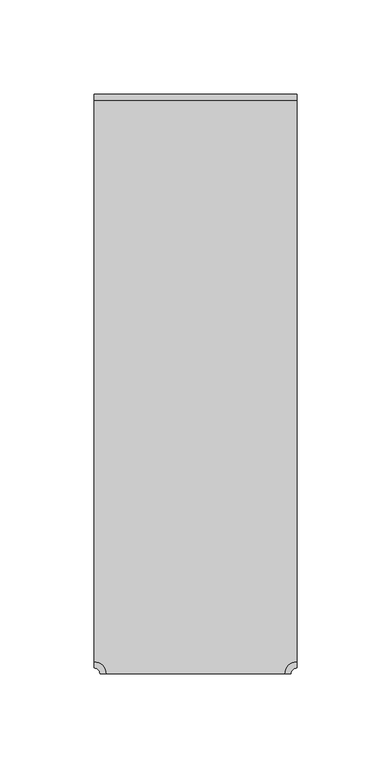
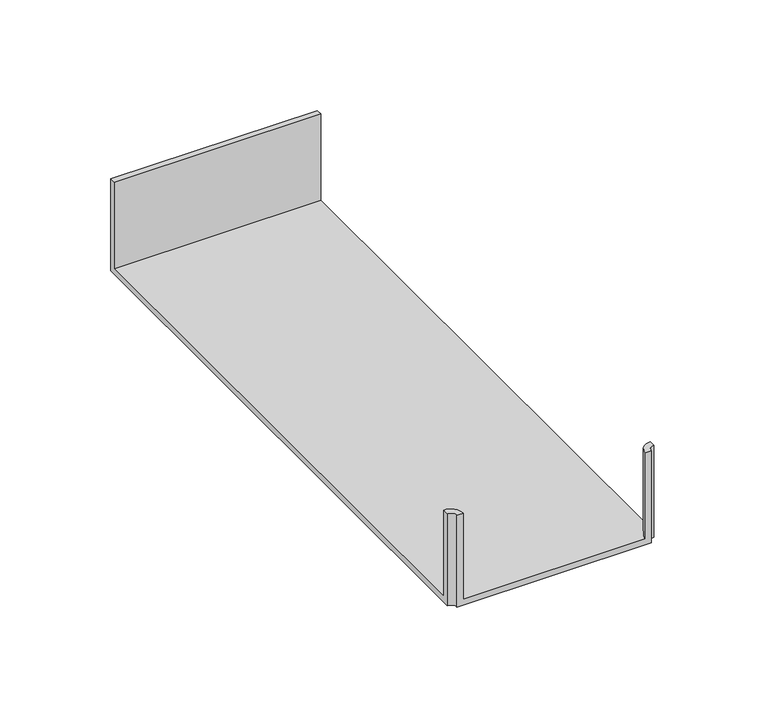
"""IFC4 building model written with IfcOpenShell, lengths in millimetres: cable carrier fitting geometry, Tee-Cablofil-Wire_Mesh_Cable_Tray : EZ T 90 KIT."""

from ifc_helpers import new_model, si_unit, frame, origin, place, context, project, spatial, polyline, circle_curve, source, transform, mapped, element, save
from ifc_brep_helpers import plane_surface, cylinder_surface, revolved_surface, advanced_brep


def cable_carrier_fitting_3a409af5(model_context):
    return source(origin(), model_context, "Body", "AdvancedBrep", [
        advanced_brep(
        [(-50.8, -155.575, 25.4), (-47.625, -155.575, 25.4), (-53.975, -149.225, 25.4), (-53.975, -152.4, 25.4), (50.8, -155.575, 25.4), (53.975, -152.4, 25.4), (53.975, -149.225, 25.4), (47.625, -155.575, 25.4), (53.975, 152.4, 25.4), (-53.975, 152.4, 25.4), (-53.975, 149.225, 25.4), (53.975, 149.225, 25.4), (-50.8, -155.575, -25.4), (-53.975, -152.4, -25.4), (-53.975, 152.4, -25.4), (53.975, 152.4, -25.4), (53.975, -152.4, -25.4), (50.8, -155.575, -25.4), (47.625, -155.575, -22.225), (-47.625, -155.575, -22.225), (-53.975, -149.225, -22.225), (-53.975, 149.225, -22.225), (53.975, 149.225, -22.225), (53.975, -149.225, -22.225)],
        [
            (0, 1),
            (1, 2, circle_curve(frame((-53.975, -155.575, 25.4), z_axis=(0.0, 0.0, 1.0), x_axis=(1.0, 0.0, 0.0)), 6.35)),
            (2, 3),
            (3, 0, circle_curve(frame((-53.975, -155.575, 25.4), z_axis=(0.0, 0.0, -1.0), x_axis=(1.0, 0.0, 0.0)), 3.175)),
            (4, 5, circle_curve(frame((53.975, -155.575, 25.4), z_axis=(0.0, 0.0, -1.0), x_axis=(1.0, 0.0, 0.0)), 3.175)),
            (5, 6),
            (6, 7, circle_curve(frame((53.975, -155.575, 25.4), z_axis=(0.0, 0.0, 1.0), x_axis=(1.0, 0.0, 0.0)), 6.35)),
            (7, 4),
            (8, 9),
            (9, 10),
            (10, 11),
            (11, 8),
            (12, 13, circle_curve(frame((-53.975, -155.575, -25.4), z_axis=(0.0, 0.0, 1.0), x_axis=(1.0, 0.0, 0.0)), 3.175)),
            (13, 14),
            (14, 15),
            (15, 16),
            (16, 17, circle_curve(frame((53.975, -155.575, -25.4), z_axis=(0.0, 0.0, 1.0), x_axis=(1.0, 0.0, 0.0)), 3.175)),
            (17, 12),
            (0, 12),
            (17, 4),
            (7, 18),
            (18, 19),
            (19, 1),
            (19, 20, circle_curve(frame((-53.975, -155.575, -22.225), z_axis=(0.0, 0.0, 1.0), x_axis=(1.0, 0.0, 0.0)), 6.35)),
            (20, 2),
            (20, 21),
            (21, 10),
            (9, 14),
            (13, 3),
            (16, 5),
            (15, 8),
            (11, 22),
            (22, 23),
            (23, 6),
            (23, 18, circle_curve(frame((53.975, -155.575, -22.225), z_axis=(0.0, 0.0, 1.0), x_axis=(1.0, 0.0, 0.0)), 6.35)),
            (21, 22),
        ],
        [
            plane_surface(frame((-50.8, -155.575, 25.4), z_axis=(0.0, 0.0, 1.0), x_axis=(1.0, 0.0, 0.0))),
            plane_surface(frame((-50.8, -155.575, -25.4), z_axis=(0.0, 0.0, -1.0), x_axis=(-1.0, 0.0, 0.0))),
            plane_surface(frame((-50.8, -155.575, 25.4), z_axis=(0.0, -1.0, 0.0), x_axis=(0.0, 0.0, -1.0))),
            cylinder_surface(frame((-53.975, -155.575, -25.4), z_axis=(0.0, 0.0, 1.0), x_axis=(1.0, 0.0, 0.0)), 6.35),
            plane_surface(frame((-53.975, -149.225, 25.4), z_axis=(-1.0, 0.0, 0.0), x_axis=(0.0, 0.0, -1.0))),
            revolved_surface(polyline([(-50.800000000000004, -155.575, -25.4), (-50.800000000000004, -155.575, 25.4)]), (-53.975, -155.575, -25.4), (0.0, 0.0, -1.0)),
            revolved_surface(polyline([(57.15, -155.575, -25.4), (57.15, -155.575, 25.4)]), (53.975, -155.575, 0.0), (0.0, 0.0, -1.0)),
            plane_surface(frame((53.975, -152.4, 25.4), z_axis=(1.0, 0.0, 0.0), x_axis=(0.0, 0.0, -1.0))),
            cylinder_surface(frame((53.975, -155.575, 0.0), z_axis=(0.0, 0.0, 1.0), x_axis=(1.0, 0.0, 0.0)), 6.35),
            plane_surface(frame((53.975, 152.4, 25.4), z_axis=(0.0, 1.0, 0.0), x_axis=(0.0, 0.0, -1.0))),
            plane_surface(frame((-53.975, 149.225, 25.4), z_axis=(0.0, -1.0, 0.0), x_axis=(0.0, 0.0, -1.0))),
            plane_surface(frame((-50.8, -155.575, -22.225), z_axis=(0.0, 0.0, 1.0), x_axis=(1.0, 0.0, 0.0))),
        ],
        [
            (0, [[1, 2, 3, 4]]),
            (0, [[5, 6, 7, 8]]),
            (0, [[9, 10, 11, 12]]),
            (1, [[13, 14, 15, 16, 17, 18]]),
            (2, [[-1, 19, -18, 20, -8, 21, 22, 23]]),
            (3, [[-2, -23, 24, 25]]),
            (4, [[-3, -25, 26, 27, -10, 28, -14, 29]]),
            (5, [[-19, -4, -29, -13]]),
            (6, [[30, -5, -20, -17]]),
            (7, [[-6, -30, -16, 31, -12, 32, 33, 34]]),
            (8, [[-7, -34, 35, -21]]),
            (9, [[-28, -9, -31, -15]]),
            (10, [[-11, -27, 36, -32]]),
            (11, [[-22, -35, -33, -36, -26, -24]]),
        ],
    ),
    ])


if __name__ == "__main__":
    model = new_model("IFC4")
    model_context = context("Model", 3, world=origin())
    ifc_project = project(units=[si_unit("LENGTHUNIT", "METRE", prefix="MILLI")], contexts=[model_context])
    site = spatial("IfcSite", under=ifc_project)
    building = spatial("IfcBuilding", under=site)
    placement = place(None, origin())
    cable_carrier_fitting_shape = cable_carrier_fitting_3a409af5(model_context)
    element("IfcCableCarrierFitting", 1, ObjectType="Tee-Cablofil-Wire_Mesh_Cable_Tray : EZ T 90 KIT", at=placement, inside=building, context=model_context, shape_type="MappedRepresentation", body=[
        mapped(cable_carrier_fitting_shape, transform((0.0, 0.0, 0.0), x_axis=(1.0, 0.0, 0.0), y_axis=(0.0, 1.0, 0.0), z_axis=(0.0, 0.0, 1.0))),
    ])
    save(model, "model.ifc")
